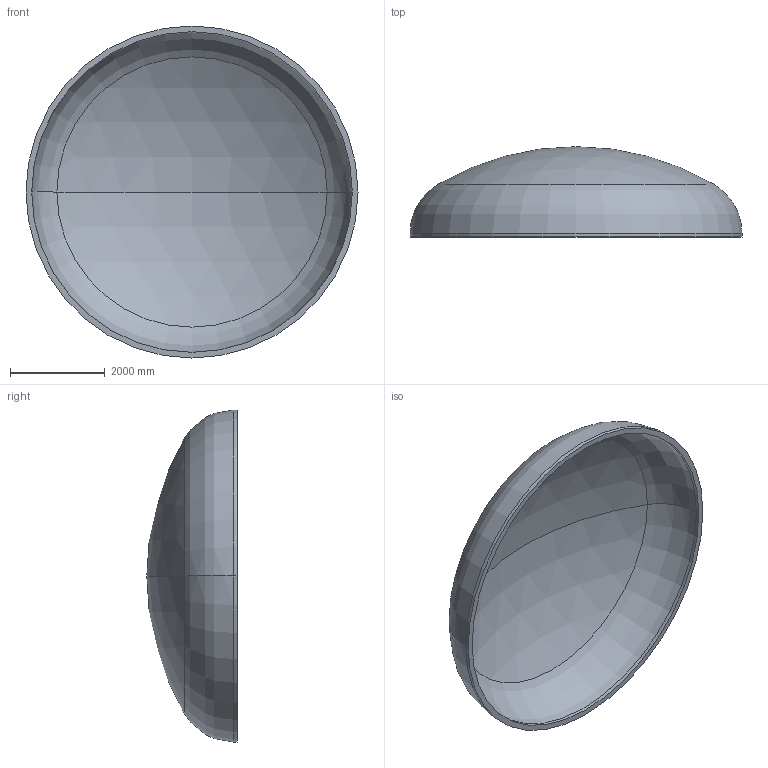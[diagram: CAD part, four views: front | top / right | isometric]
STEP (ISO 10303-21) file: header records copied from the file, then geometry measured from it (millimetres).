
FILE_DESCRIPTION (( 'STEP AP203' ), '1' );
FILE_NAME ('DIN 28013 Korbbogenform_-_Boden DIN 28013 - 7000 x 75 - I - s=120.step', '2016-07-04T10:50:54', ( '' ), ( '' ), 'SwSTEP 2.0', 'SolidWorks 2013', '' );
FILE_SCHEMA (( 'CONFIG_CONTROL_DESIGN' ));
Length unit declared in the file: millimetre
Products named in the file (1): DIN 28013 Korbbogenform_-_Boden DIN 28013 - 7000 x 75 - I - s=120
Bounding box: 7000 x 1903.93 x 7000 mm (x, y, z)
Volume: 6449881699.6 mm3; surface area: 110121846 mm2
Topology: 1 solids, 1 shells, 13 faces, 24 edges, 14 vertices
Faces by surface type: torus 4, cylinder 4, sphere 4, plane 1
Entity records: 407 total; most frequent: DIRECTION 72, CARTESIAN_POINT 52, ORIENTED_EDGE 48, AXIS2_PLACEMENT_3D 34, EDGE_CURVE 24, CIRCLE 20, VERTEX_POINT 14, EDGE_LOOP 14
